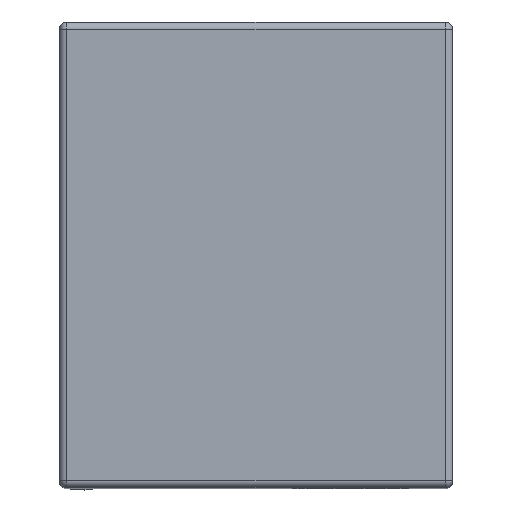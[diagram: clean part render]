
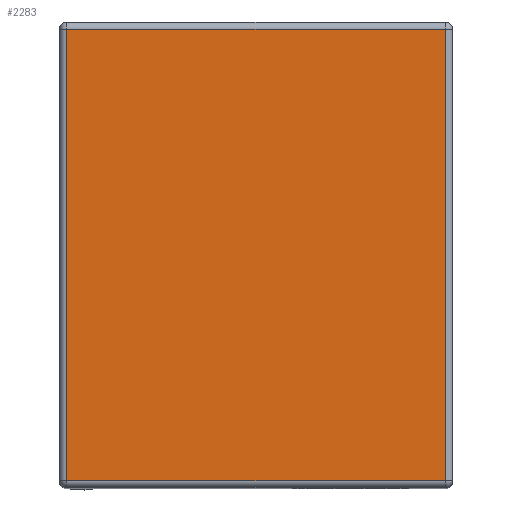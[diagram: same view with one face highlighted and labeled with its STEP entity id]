
A CAD part, top view. The second image highlights one B-rep face of the part: STEP entity #2283.
In plain terms, the highlighted planar face has unit normal (0, 0, 1).
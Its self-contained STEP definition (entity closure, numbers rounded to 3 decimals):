
#100=PLANE('',#2544);
#216=FACE_OUTER_BOUND('',#372,.T.);
#372=EDGE_LOOP('',(#1880,#1881,#1882,#1883));
#551=LINE('',#3785,#727);
#553=LINE('',#3795,#729);
#555=LINE('',#3798,#731);
#556=LINE('',#3800,#732);
#727=VECTOR('',#3113,10.);
#729=VECTOR('',#3127,10.);
#731=VECTOR('',#3131,10.);
#732=VECTOR('',#3134,10.);
#1034=VERTEX_POINT('',#3748);
#1037=VERTEX_POINT('',#3760);
#1041=VERTEX_POINT('',#3778);
#1042=VERTEX_POINT('',#3787);
#1316=EDGE_CURVE('',#1034,#1041,#551,.T.);
#1321=EDGE_CURVE('',#1041,#1042,#553,.T.);
#1323=EDGE_CURVE('',#1042,#1037,#555,.T.);
#1324=EDGE_CURVE('',#1037,#1034,#556,.T.);
#1880=ORIENTED_EDGE('',*,*,#1316,.F.);
#1881=ORIENTED_EDGE('',*,*,#1324,.F.);
#1882=ORIENTED_EDGE('',*,*,#1323,.F.);
#1883=ORIENTED_EDGE('',*,*,#1321,.F.);
#2283=ADVANCED_FACE('',(#216),#100,.T.);
#2544=AXIS2_PLACEMENT_3D('',#3831,#3166,#3167);
#3113=DIRECTION('',(0.,1.,0.));
#3127=DIRECTION('',(1.,0.,0.));
#3131=DIRECTION('',(0.,-1.,0.));
#3134=DIRECTION('',(-1.,0.,0.));
#3166=DIRECTION('center_axis',(0.,0.,1.));
#3167=DIRECTION('ref_axis',(1.,0.,0.));
#3748=CARTESIAN_POINT('',(-260.,-310.,900.));
#3760=CARTESIAN_POINT('',(260.,-310.,900.));
#3778=CARTESIAN_POINT('',(-260.,310.,900.));
#3785=CARTESIAN_POINT('',(-260.,160.,900.));
#3787=CARTESIAN_POINT('',(260.,310.,900.));
#3795=CARTESIAN_POINT('',(135.,310.,900.));
#3798=CARTESIAN_POINT('',(260.,-160.,900.));
#3800=CARTESIAN_POINT('',(-135.,-310.,900.));
#3831=CARTESIAN_POINT('Origin',(0.,0.,900.));
